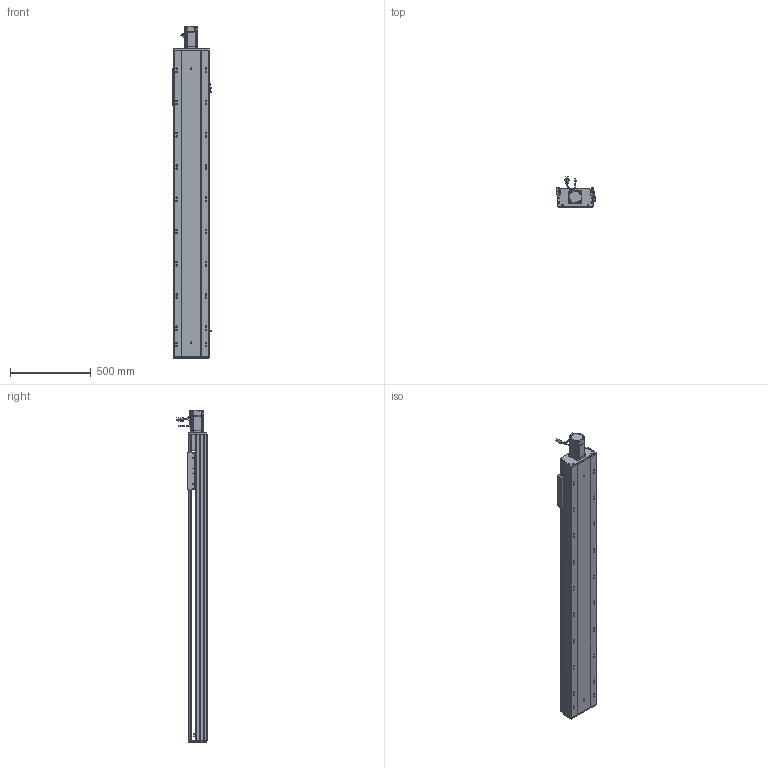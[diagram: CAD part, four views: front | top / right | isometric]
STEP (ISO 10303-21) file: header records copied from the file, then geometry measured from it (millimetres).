
FILE_DESCRIPTION (( 'STEP AP203' ), '1' );
FILE_NAME ('RY220-L2525-300-MK.SLDASM_1500.step', '2022-07-04T02:58:21', ( '' ), ( '' ), 'SwSTEP 2.0', 'SolidWorks 2016', '' );
FILE_SCHEMA (( 'CONFIG_CONTROL_DESIGN' ));
Length unit declared in the file: millimetre
Products named in the file (12): RY220半封闭25-32螺母铝滑块; RY220ヶ裔啣; 滅袉蝶18-12; RY220-300-奻裔啣-MK_1500; RY220菁釱MK-300_1500; 怢湛750W_ECMA-CX0807ES; RY220电机支撑座FK20（PCD90M6）; RY220-L2525-300-MK.SLDASM_1500; 滅袉蝶18-15; RY220-俋离672覜茼んえ; 覜茼ん672; RY220綴裔啣
Assembly tree (15 placements, depth 2):
  RY220-L2525-300-MK.SLDASM_1500
    RY220菁釱MK-300_1500
    RY220电机支撑座FK20（PCD90M6）
    怢湛750W_ECMA-CX0807ES
    滅袉蝶18-12  x2
    RY220ヶ裔啣
    RY220綴裔啣
    覜茼ん672  x3
    RY220半封闭25-32螺母铝滑块
    RY220-300-奻裔啣-MK_1500
    RY220-俋离672覜茼んえ
    滅袉蝶18-15  x2
Bounding box: 238.7 x 187.27 x 2058.3 mm (x, y, z)
Volume: 15606495.7 mm3; surface area: 4487157.6 mm2
Topology: 16 solids, 16 shells, 2320 faces, 6438 edges, 4048 vertices
Faces by surface type: cylinder 1070, plane 907, cone 281, bspline 36, sphere 16, torus 10
Entity records: 76466 total; most frequent: CARTESIAN_POINT 21691, ORIENTED_EDGE 11352, DIRECTION 10815, EDGE_CURVE 5676, AXIS2_PLACEMENT_3D 3837, VERTEX_POINT 3704, LINE 3141, VECTOR 3141
